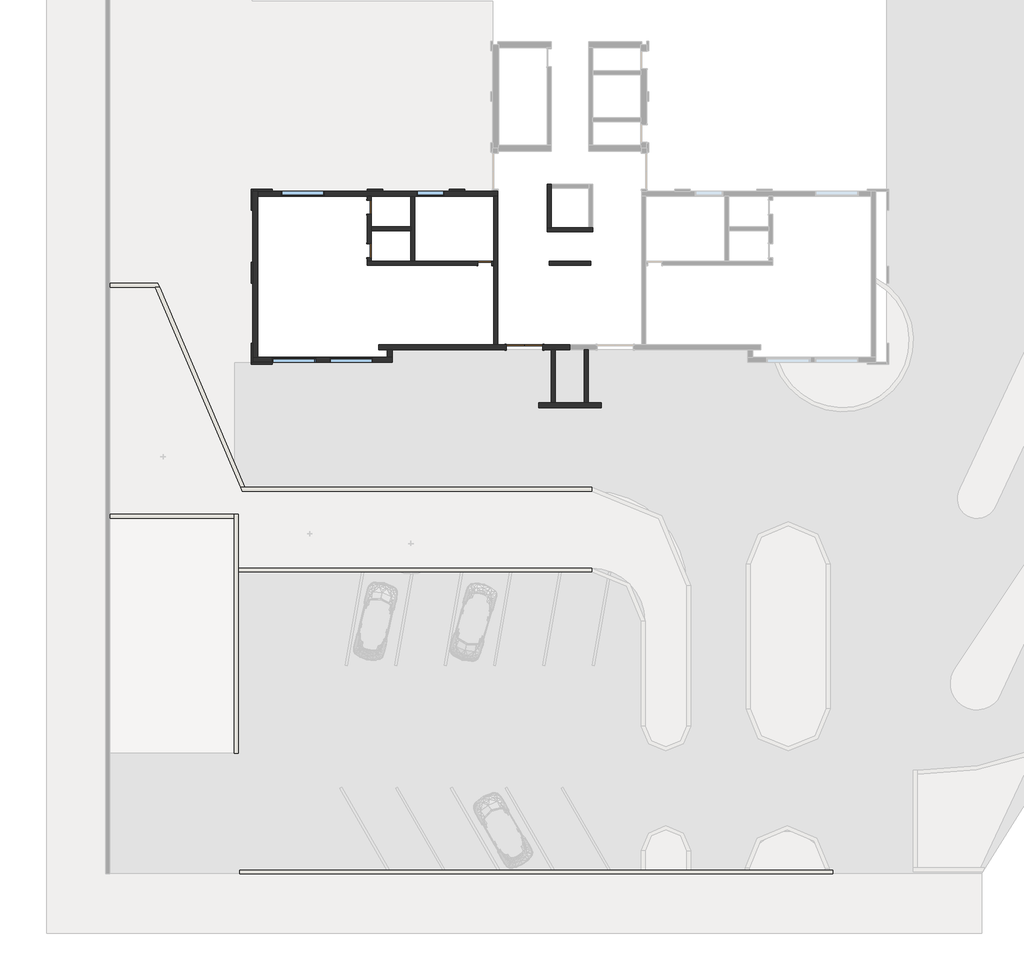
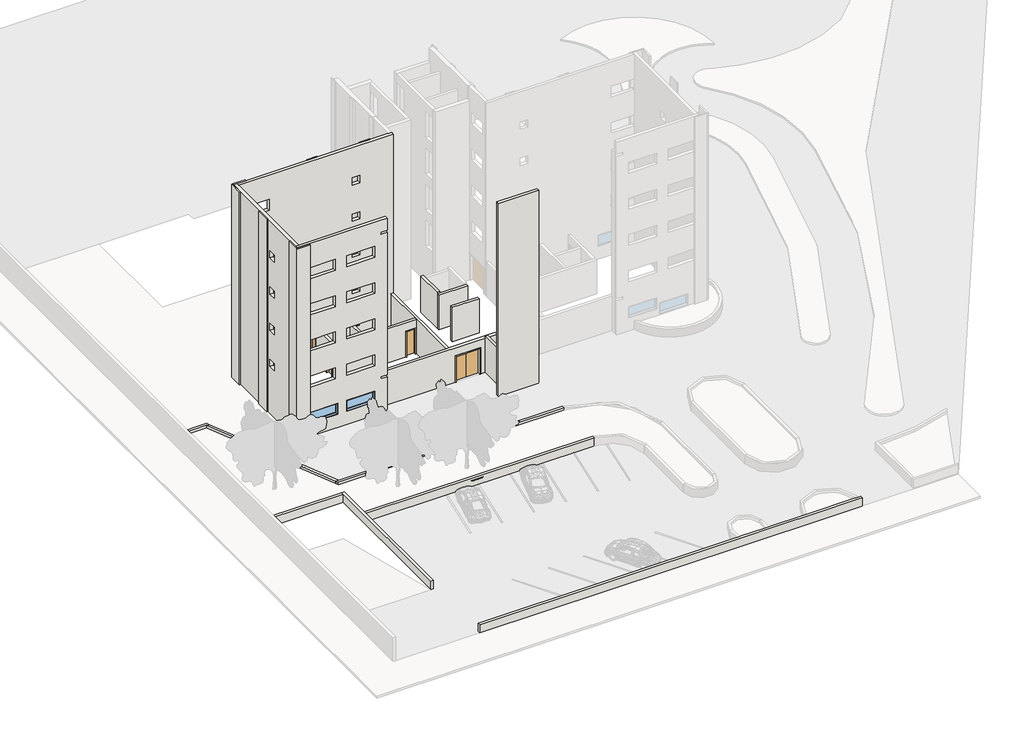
# One storey, part 1 of 6: 30 walls, 4 doors, 4 windows.
"""IFC4 building model written with IfcOpenShell, lengths in millimetres."""

from ifc_helpers import new_model, si_unit, origin, origin_with_axes, place, context, project, spatial, polyline, outline, extrude, faceted_brep, transform, mapped, element, save
from components import door_1830_x_2134_mm_660d1098, door_70_x_210_60989ca5, door_70_x_210_2a34fc55, window_140_x_90_3976a560, window_220_x_90_cea65aae

model = new_model("IFC4")

# Units and contexts
model_context = context("Model", 3, world=origin())
ifc_project = project(units=[si_unit("LENGTHUNIT", "METRE", prefix="MILLI")], contexts=[model_context])

# Site, building, storey
site = spatial("IfcSite", under=ifc_project)
building = spatial("IfcBuilding", under=site)
storey = spatial("IfcBuildingStorey", under=building, Name="Térreo", Elevation=0.0)

# Doors
placement = place(None, origin())
door_1830_x_2134_mm_shape = door_1830_x_2134_mm_660d1098(model_context)
element("IfcDoor", 1, ObjectType="Descarga dupla : 1830 x 2134 mm", at=placement, inside=storey, context=model_context, shape_type="MappedRepresentation", body=[
    mapped(door_1830_x_2134_mm_shape, transform((-3318.7265742, -11931.3385375, 0.0), x_axis=(1.0, 0.0, 0.0), y_axis=(0.0, 1.0, 0.0), z_axis=(0.0, 0.0, 1.0))),
])
door_70_x_210_shape = door_70_x_210_60989ca5(model_context)
element("IfcDoor", 2, ObjectType="M_Descarga simples : 70 x 210", at=placement, inside=storey, context=model_context, shape_type="MappedRepresentation", body=[
    mapped(door_70_x_210_shape, transform((-5326.2265742, -7686.3385375, 0.0), x_axis=(1.0, 0.0, 0.0), y_axis=(0.0, 1.0, 0.0), z_axis=(0.0, 0.0, 1.0))),
])
element("IfcDoor", 3, ObjectType="M_Descarga simples : 70 x 210", at=placement, inside=storey, context=model_context, shape_type="MappedRepresentation", body=[
    mapped(door_70_x_210_shape, transform((-11191.2265742, -7036.3385375, 0.0), x_axis=(0.0, -1.0, 0.0), y_axis=(1.0, 0.0, 0.0), z_axis=(0.0, 0.0, 1.0))),
])
door_70_x_210_2_shape = door_70_x_210_2a34fc55(model_context)
element("IfcDoor", 4, ObjectType="M_Descarga simples : 70 x 210", at=placement, inside=storey, context=model_context, shape_type="MappedRepresentation", body=[
    mapped(door_70_x_210_2_shape, transform((-11191.2265742, -4836.3385375, 0.0), x_axis=(0.0, 1.0, 0.0), y_axis=(-1.0, 0.0, 0.0), z_axis=(0.0, 0.0, 1.0))),
])

# Walls
element("IfcWall", 5, ObjectType="Exeterna 25", at=placement, inside=storey, context=model_context, shape_type="Brep", body=[
    faceted_brep([(-2611.2265742, -14981.3385375, 16000.0), (-2611.2265742, -14981.3385375, 14700.0), (-2611.2265742, -14981.3385375, 12150.0), (-2611.2265742, -14981.3385375, 11850.0), (-2611.2265742, -14981.3385375, 9150.0), (-2611.2265742, -14981.3385375, 8850.0), (-2611.2265742, -14981.3385375, 6150.0), (-2611.2265742, -14981.3385375, 5850.0), (-2611.2265742, -14981.3385375, 3150.0), (-2611.2265742, -14981.3385375, 2850.0), (-2611.2265742, -14981.3385375, 0.0), (558.7734258, -14981.3385375, 0.0), (558.7734258, -14981.3385375, 2850.0), (558.7734258, -14981.3385375, 3150.0), (558.7734258, -14981.3385375, 5850.0), (558.7734258, -14981.3385375, 6150.0), (558.7734258, -14981.3385375, 8850.0), (558.7734258, -14981.3385375, 9150.0), (558.7734258, -14981.3385375, 11850.0), (558.7734258, -14981.3385375, 12150.0), (558.7734258, -14981.3385375, 14700.0), (558.7734258, -14981.3385375, 16000.0), (-2611.2265742, -14731.3385375, 0.0), (-2611.2265742, -14731.3385375, 2850.0), (-2611.2265742, -14731.3385375, 3150.0), (-2611.2265742, -14731.3385375, 5850.0), (-2611.2265742, -14731.3385375, 6150.0), (-2611.2265742, -14731.3385375, 8850.0), (-2611.2265742, -14731.3385375, 9150.0), (-2611.2265742, -14731.3385375, 11850.0), (-2611.2265742, -14731.3385375, 12150.0), (-2611.2265742, -14731.3385375, 14700.0), (-2611.2265742, -14731.3385375, 16000.0), (558.7734258, -14731.3385375, 16000.0), (558.7734258, -14731.3385375, 14700.0), (558.7734258, -14731.3385375, 12150.0), (558.7734258, -14731.3385375, 11850.0), (558.7734258, -14731.3385375, 9150.0), (558.7734258, -14731.3385375, 8850.0), (558.7734258, -14731.3385375, 6150.0), (558.7734258, -14731.3385375, 5850.0), (558.7734258, -14731.3385375, 3150.0), (558.7734258, -14731.3385375, 2850.0), (558.7734258, -14731.3385375, 0.0), (-91.2265742, -14731.3385375, 0.0), (-291.2265742, -14731.3385375, 0.0), (-1761.2265742, -14731.3385375, 0.0), (-1961.2265742, -14731.3385375, 0.0)], [[[0, 1, 2, 3, 4, 5, 6, 7, 8, 9, 10, 11, 12, 13, 14, 15, 16, 17, 18, 19, 20, 21]], [[22, 23, 24, 25, 26, 27, 28, 29, 30, 31, 32, 33, 34, 35, 36, 37, 38, 39, 40, 41, 42, 43, 44, 45, 46, 47]], [[11, 10, 22, 47, 46, 45, 44, 43]], [[0, 21, 33, 32]], [[11, 43, 42, 41, 40, 39, 38, 37, 36, 35, 34, 33, 21, 20, 19, 18, 17, 16, 15, 14, 13, 12]], [[0, 32, 31, 30, 29, 28, 27, 26, 25, 24, 23, 22, 10, 9, 8, 7, 6, 5, 4, 3, 2, 1]]]),
])
element("IfcWall", 6, ObjectType="Exeterna 25", at=placement, inside=storey, context=model_context, shape_type="Brep", body=[
    faceted_brep([(-10026.2265742, -12436.3385375, 0.0), (-10276.2265742, -12436.3385375, 0.0), (-16816.2265742, -12436.3385375, 0.0), (-17066.2265742, -12436.3385375, 0.0), (-17066.2265742, -12436.3385375, 16000.0), (-16816.2265742, -12436.3385375, 16000.0), (-10026.2265742, -12436.3385375, 16000.0), (-10026.2265742, -12436.3385375, 15000.0), (-10516.2265742, -12436.3385375, 15000.0), (-10516.2265742, -12436.3385375, 14850.0), (-10026.2265742, -12436.3385375, 14850.0), (-10026.2265742, -12436.3385375, 3000.0), (-10516.2265742, -12436.3385375, 3000.0), (-10516.2265742, -12436.3385375, 2850.0), (-10026.2265742, -12436.3385375, 2850.0), (-13191.2265742, -12436.3385375, 5000.0), (-13191.2265742, -12436.3385375, 4100.0), (-10991.2265742, -12436.3385375, 4100.0), (-10991.2265742, -12436.3385375, 5000.0), (-16291.2265742, -12436.3385375, 5000.0), (-16291.2265742, -12436.3385375, 4100.0), (-14091.2265742, -12436.3385375, 4100.0), (-14091.2265742, -12436.3385375, 5000.0), (-16291.2265742, -12436.3385375, 8000.0), (-16291.2265742, -12436.3385375, 7100.0), (-14091.2265742, -12436.3385375, 7100.0), (-14091.2265742, -12436.3385375, 8000.0), (-13191.2265742, -12436.3385375, 8000.0), (-13191.2265742, -12436.3385375, 7100.0), (-10991.2265742, -12436.3385375, 7100.0), (-10991.2265742, -12436.3385375, 8000.0), (-16291.2265742, -12436.3385375, 11000.0), (-16291.2265742, -12436.3385375, 10100.0), (-14091.2265742, -12436.3385375, 10100.0), (-14091.2265742, -12436.3385375, 11000.0), (-13191.2265742, -12436.3385375, 11000.0), (-13191.2265742, -12436.3385375, 10100.0), (-10991.2265742, -12436.3385375, 10100.0), (-10991.2265742, -12436.3385375, 11000.0), (-16291.2265742, -12436.3385375, 14000.0), (-16291.2265742, -12436.3385375, 13100.0), (-14091.2265742, -12436.3385375, 13100.0), (-14091.2265742, -12436.3385375, 14000.0), (-13191.2265742, -12436.3385375, 14000.0), (-13191.2265742, -12436.3385375, 13100.0), (-10991.2265742, -12436.3385375, 13100.0), (-10991.2265742, -12436.3385375, 14000.0), (-16096.2265742, -12436.3385375, 2000.0), (-16096.2265742, -12436.3385375, 1100.0), (-13896.2265742, -12436.3385375, 1100.0), (-13896.2265742, -12436.3385375, 2000.0), (-13191.2265742, -12436.3385375, 2000.0), (-13191.2265742, -12436.3385375, 1100.0), (-10991.2265742, -12436.3385375, 1100.0), (-10991.2265742, -12436.3385375, 2000.0), (-17066.2265742, -12686.3385375, 0.0), (-10026.2265742, -12686.3385375, 0.0), (-10026.2265742, -12686.3385375, 2850.0), (-10516.2265742, -12686.3385375, 2850.0), (-10516.2265742, -12686.3385375, 3000.0), (-10026.2265742, -12686.3385375, 3000.0), (-10026.2265742, -12686.3385375, 14850.0), (-10516.2265742, -12686.3385375, 14850.0), (-10516.2265742, -12686.3385375, 15000.0), (-10026.2265742, -12686.3385375, 15000.0), (-10026.2265742, -12686.3385375, 16000.0), (-10516.2265742, -12686.3385375, 16000.0), (-10766.2265742, -12686.3385375, 16000.0), (-17066.2265742, -12686.3385375, 16000.0), (-13191.2265742, -12686.3385375, 4100.0), (-13191.2265742, -12686.3385375, 5000.0), (-10991.2265742, -12686.3385375, 5000.0), (-10991.2265742, -12686.3385375, 4100.0), (-16291.2265742, -12686.3385375, 4100.0), (-16291.2265742, -12686.3385375, 5000.0), (-14091.2265742, -12686.3385375, 5000.0), (-14091.2265742, -12686.3385375, 4100.0), (-16291.2265742, -12686.3385375, 7100.0), (-16291.2265742, -12686.3385375, 8000.0), (-14091.2265742, -12686.3385375, 8000.0), (-14091.2265742, -12686.3385375, 7100.0), (-13191.2265742, -12686.3385375, 7100.0), (-13191.2265742, -12686.3385375, 8000.0), (-10991.2265742, -12686.3385375, 8000.0), (-10991.2265742, -12686.3385375, 7100.0), (-16291.2265742, -12686.3385375, 10100.0), (-16291.2265742, -12686.3385375, 11000.0), (-14091.2265742, -12686.3385375, 11000.0), (-14091.2265742, -12686.3385375, 10100.0), (-13191.2265742, -12686.3385375, 10100.0), (-13191.2265742, -12686.3385375, 11000.0), (-10991.2265742, -12686.3385375, 11000.0), (-10991.2265742, -12686.3385375, 10100.0), (-16291.2265742, -12686.3385375, 13100.0), (-16291.2265742, -12686.3385375, 14000.0), (-14091.2265742, -12686.3385375, 14000.0), (-14091.2265742, -12686.3385375, 13100.0), (-13191.2265742, -12686.3385375, 13100.0), (-13191.2265742, -12686.3385375, 14000.0), (-10991.2265742, -12686.3385375, 14000.0), (-10991.2265742, -12686.3385375, 13100.0), (-16096.2265742, -12686.3385375, 1100.0), (-16096.2265742, -12686.3385375, 2000.0), (-13896.2265742, -12686.3385375, 2000.0), (-13896.2265742, -12686.3385375, 1100.0), (-13191.2265742, -12686.3385375, 1100.0), (-13191.2265742, -12686.3385375, 2000.0), (-10991.2265742, -12686.3385375, 2000.0), (-10991.2265742, -12686.3385375, 1100.0)], [[[0, 1, 2, 3, 4, 5, 6, 7, 8, 9, 10, 11, 12, 13, 14], [15, 16, 17, 18], [19, 20, 21, 22], [23, 24, 25, 26], [27, 28, 29, 30], [31, 32, 33, 34], [35, 36, 37, 38], [39, 40, 41, 42], [43, 44, 45, 46], [47, 48, 49, 50], [51, 52, 53, 54]], [[55, 56, 57, 58, 59, 60, 61, 62, 63, 64, 65, 66, 67, 68], [69, 70, 71, 72], [73, 74, 75, 76], [77, 78, 79, 80], [81, 82, 83, 84], [85, 86, 87, 88], [89, 90, 91, 92], [93, 94, 95, 96], [97, 98, 99, 100], [101, 102, 103, 104], [105, 106, 107, 108]], [[3, 2, 1, 0, 56, 55]], [[6, 5, 4, 68, 67, 66, 65]], [[4, 3, 55, 68]], [[6, 65, 64, 7]], [[56, 0, 14, 57]], [[60, 11, 10, 61]], [[13, 58, 57, 14]], [[59, 12, 11, 60]], [[58, 13, 12, 59]], [[70, 69, 16, 15]], [[71, 70, 15, 18]], [[72, 71, 18, 17]], [[69, 72, 17, 16]], [[74, 73, 20, 19]], [[75, 74, 19, 22]], [[76, 75, 22, 21]], [[73, 76, 21, 20]], [[9, 62, 61, 10]], [[63, 8, 7, 64]], [[62, 9, 8, 63]], [[78, 77, 24, 23]], [[79, 78, 23, 26]], [[80, 79, 26, 25]], [[77, 80, 25, 24]], [[82, 81, 28, 27]], [[83, 82, 27, 30]], [[84, 83, 30, 29]], [[81, 84, 29, 28]], [[86, 85, 32, 31]], [[87, 86, 31, 34]], [[88, 87, 34, 33]], [[85, 88, 33, 32]], [[90, 89, 36, 35]], [[91, 90, 35, 38]], [[92, 91, 38, 37]], [[89, 92, 37, 36]], [[94, 93, 40, 39]], [[95, 94, 39, 42]], [[96, 95, 42, 41]], [[93, 96, 41, 40]], [[98, 97, 44, 43]], [[99, 98, 43, 46]], [[100, 99, 46, 45]], [[97, 100, 45, 44]], [[102, 101, 48, 47]], [[103, 102, 47, 50]], [[104, 103, 50, 49]], [[101, 104, 49, 48]], [[106, 105, 52, 51]], [[107, 106, 51, 54]], [[108, 107, 54, 53]], [[105, 108, 53, 52]]]),
])
element("IfcWall", 7, ObjectType="Exeterna 25", at=placement, inside=storey, context=model_context, shape_type="Brep", body=[
    faceted_brep([(-16816.2265742, -12436.3385375, 0.0), (-16816.2265742, -4286.3385375, 0.0), (-16816.2265742, -4036.3385375, 0.0), (-16816.2265742, -4036.3385375, 16000.0), (-16816.2265742, -4286.3385375, 16000.0), (-16816.2265742, -12436.3385375, 16000.0), (-16816.2265742, -12436.3385375, 15000.0), (-16816.2265742, -12436.3385375, 14850.0), (-16816.2265742, -12436.3385375, 3000.0), (-16816.2265742, -12436.3385375, 2850.0), (-16816.2265742, -8966.3385375, 4515.0), (-16816.2265742, -8966.3385375, 3915.0), (-16816.2265742, -9566.3385375, 3915.0), (-16816.2265742, -9566.3385375, 4515.0), (-16816.2265742, -8966.3385375, 7515.0), (-16816.2265742, -8966.3385375, 6915.0), (-16816.2265742, -9566.3385375, 6915.0), (-16816.2265742, -9566.3385375, 7515.0), (-16816.2265742, -8966.3385375, 10515.0), (-16816.2265742, -8966.3385375, 9915.0), (-16816.2265742, -9566.3385375, 9915.0), (-16816.2265742, -9566.3385375, 10515.0), (-16816.2265742, -8966.3385375, 13515.0), (-16816.2265742, -8966.3385375, 12915.0), (-16816.2265742, -9566.3385375, 12915.0), (-16816.2265742, -9566.3385375, 13515.0), (-17066.2265742, -4036.3385375, 0.0), (-17066.2265742, -12436.3385375, 0.0), (-17066.2265742, -12436.3385375, 16000.0), (-17066.2265742, -4036.3385375, 16000.0), (-17066.2265742, -8966.3385375, 3915.0), (-17066.2265742, -8966.3385375, 4515.0), (-17066.2265742, -9566.3385375, 4515.0), (-17066.2265742, -9566.3385375, 3915.0), (-17066.2265742, -8966.3385375, 6915.0), (-17066.2265742, -8966.3385375, 7515.0), (-17066.2265742, -9566.3385375, 7515.0), (-17066.2265742, -9566.3385375, 6915.0), (-17066.2265742, -8966.3385375, 9915.0), (-17066.2265742, -8966.3385375, 10515.0), (-17066.2265742, -9566.3385375, 10515.0), (-17066.2265742, -9566.3385375, 9915.0), (-17066.2265742, -8966.3385375, 12915.0), (-17066.2265742, -8966.3385375, 13515.0), (-17066.2265742, -9566.3385375, 13515.0), (-17066.2265742, -9566.3385375, 12915.0)], [[[0, 1, 2, 3, 4, 5, 6, 7, 8, 9], [10, 11, 12, 13], [14, 15, 16, 17], [18, 19, 20, 21], [22, 23, 24, 25]], [[26, 27, 28, 29], [30, 31, 32, 33], [34, 35, 36, 37], [38, 39, 40, 41], [42, 43, 44, 45]], [[2, 1, 0, 27, 26]], [[5, 4, 3, 29, 28]], [[3, 2, 26, 29]], [[5, 28, 27, 0, 9, 8, 7, 6]], [[31, 30, 11, 10]], [[32, 31, 10, 13]], [[33, 32, 13, 12]], [[30, 33, 12, 11]], [[35, 34, 15, 14]], [[36, 35, 14, 17]], [[37, 36, 17, 16]], [[34, 37, 16, 15]], [[39, 38, 19, 18]], [[40, 39, 18, 21]], [[41, 40, 21, 20]], [[38, 41, 20, 19]], [[43, 42, 23, 22]], [[44, 43, 22, 25]], [[45, 44, 25, 24]], [[42, 45, 24, 23]]]),
])
element("IfcWall", 8, ObjectType="Exeterna 25", at=placement, inside=storey, context=model_context, shape_type="Brep", body=[
    faceted_brep([(-16816.2265742, -4286.3385375, 0.0), (-11291.2265742, -4286.3385375, 0.0), (-11091.2265742, -4286.3385375, 0.0), (-9076.2265742, -4286.3385375, 0.0), (-8876.2265742, -4286.3385375, 0.0), (-4876.2265742, -4286.3385375, 0.0), (-4676.2265742, -4286.3385375, 0.0), (-4676.2265742, -4286.3385375, 2850.0), (-4676.2265742, -4286.3385375, 3000.0), (-4676.2265742, -4286.3385375, 5850.0), (-4676.2265742, -4286.3385375, 6000.0), (-4676.2265742, -4286.3385375, 8850.0), (-4676.2265742, -4286.3385375, 9000.0), (-4676.2265742, -4286.3385375, 11850.0), (-4676.2265742, -4286.3385375, 12000.0), (-4676.2265742, -4286.3385375, 14850.0), (-4676.2265742, -4286.3385375, 15000.0), (-4676.2265742, -4286.3385375, 16000.0), (-16816.2265742, -4286.3385375, 16000.0), (-16816.2265742, -4286.3385375, 15000.0), (-16816.2265742, -4286.3385375, 14850.0), (-16816.2265742, -4286.3385375, 3000.0), (-16816.2265742, -4286.3385375, 2850.0), (-7316.2265742, -4286.3385375, 4515.0), (-7316.2265742, -4286.3385375, 3915.0), (-7916.2265742, -4286.3385375, 3915.0), (-7916.2265742, -4286.3385375, 4515.0), (-14416.2265742, -4286.3385375, 5000.0), (-14416.2265742, -4286.3385375, 4100.0), (-16616.2265742, -4286.3385375, 4100.0), (-16616.2265742, -4286.3385375, 5000.0), (-7316.2265742, -4286.3385375, 7515.0), (-7316.2265742, -4286.3385375, 6915.0), (-7916.2265742, -4286.3385375, 6915.0), (-7916.2265742, -4286.3385375, 7515.0), (-14416.2265742, -4286.3385375, 8000.0), (-14416.2265742, -4286.3385375, 7100.0), (-16616.2265742, -4286.3385375, 7100.0), (-16616.2265742, -4286.3385375, 8000.0), (-7316.2265742, -4286.3385375, 10515.0), (-7316.2265742, -4286.3385375, 9915.0), (-7916.2265742, -4286.3385375, 9915.0), (-7916.2265742, -4286.3385375, 10515.0), (-14416.2265742, -4286.3385375, 11000.0), (-14416.2265742, -4286.3385375, 10100.0), (-16616.2265742, -4286.3385375, 10100.0), (-16616.2265742, -4286.3385375, 11000.0), (-7316.2265742, -4286.3385375, 13515.0), (-7316.2265742, -4286.3385375, 12915.0), (-7916.2265742, -4286.3385375, 12915.0), (-7916.2265742, -4286.3385375, 13515.0), (-14416.2265742, -4286.3385375, 14000.0), (-14416.2265742, -4286.3385375, 13100.0), (-16616.2265742, -4286.3385375, 13100.0), (-16616.2265742, -4286.3385375, 14000.0), (-13446.2265742, -4286.3385375, 2000.0), (-13446.2265742, -4286.3385375, 1100.0), (-15646.2265742, -4286.3385375, 1100.0), (-15646.2265742, -4286.3385375, 2000.0), (-7376.2265742, -4286.3385375, 2000.0), (-7376.2265742, -4286.3385375, 1100.0), (-8776.2265742, -4286.3385375, 1100.0), (-8776.2265742, -4286.3385375, 2000.0), (-4676.2265742, -4036.3385375, 0.0), (-4926.2265742, -4036.3385375, 0.0), (-16816.2265742, -4036.3385375, 0.0), (-16816.2265742, -4036.3385375, 16000.0), (-4926.2265742, -4036.3385375, 16000.0), (-4676.2265742, -4036.3385375, 16000.0), (-4676.2265742, -4036.3385375, 15000.0), (-4676.2265742, -4036.3385375, 14850.0), (-4676.2265742, -4036.3385375, 3000.0), (-4676.2265742, -4036.3385375, 2850.0), (-7316.2265742, -4036.3385375, 3915.0), (-7316.2265742, -4036.3385375, 4515.0), (-7916.2265742, -4036.3385375, 4515.0), (-7916.2265742, -4036.3385375, 3915.0), (-14416.2265742, -4036.3385375, 4100.0), (-14416.2265742, -4036.3385375, 5000.0), (-16616.2265742, -4036.3385375, 5000.0), (-16616.2265742, -4036.3385375, 4100.0), (-7316.2265742, -4036.3385375, 6915.0), (-7316.2265742, -4036.3385375, 7515.0), (-7916.2265742, -4036.3385375, 7515.0), (-7916.2265742, -4036.3385375, 6915.0), (-14416.2265742, -4036.3385375, 7100.0), (-14416.2265742, -4036.3385375, 8000.0), (-16616.2265742, -4036.3385375, 8000.0), (-16616.2265742, -4036.3385375, 7100.0), (-7316.2265742, -4036.3385375, 9915.0), (-7316.2265742, -4036.3385375, 10515.0), (-7916.2265742, -4036.3385375, 10515.0), (-7916.2265742, -4036.3385375, 9915.0), (-14416.2265742, -4036.3385375, 10100.0), (-14416.2265742, -4036.3385375, 11000.0), (-16616.2265742, -4036.3385375, 11000.0), (-16616.2265742, -4036.3385375, 10100.0), (-7316.2265742, -4036.3385375, 12915.0), (-7316.2265742, -4036.3385375, 13515.0), (-7916.2265742, -4036.3385375, 13515.0), (-7916.2265742, -4036.3385375, 12915.0), (-14416.2265742, -4036.3385375, 13100.0), (-14416.2265742, -4036.3385375, 14000.0), (-16616.2265742, -4036.3385375, 14000.0), (-16616.2265742, -4036.3385375, 13100.0), (-13446.2265742, -4036.3385375, 1100.0), (-13446.2265742, -4036.3385375, 2000.0), (-15646.2265742, -4036.3385375, 2000.0), (-15646.2265742, -4036.3385375, 1100.0), (-7376.2265742, -4036.3385375, 1100.0), (-7376.2265742, -4036.3385375, 2000.0), (-8776.2265742, -4036.3385375, 2000.0), (-8776.2265742, -4036.3385375, 1100.0)], [[[0, 1, 2, 3, 4, 5, 6, 7, 8, 9, 10, 11, 12, 13, 14, 15, 16, 17, 18, 19, 20, 21, 22], [23, 24, 25, 26], [27, 28, 29, 30], [31, 32, 33, 34], [35, 36, 37, 38], [39, 40, 41, 42], [43, 44, 45, 46], [47, 48, 49, 50], [51, 52, 53, 54], [55, 56, 57, 58], [59, 60, 61, 62]], [[63, 64, 65, 66, 67, 68, 69, 70, 71, 72], [73, 74, 75, 76], [77, 78, 79, 80], [81, 82, 83, 84], [85, 86, 87, 88], [89, 90, 91, 92], [93, 94, 95, 96], [97, 98, 99, 100], [101, 102, 103, 104], [105, 106, 107, 108], [109, 110, 111, 112]], [[6, 5, 4, 3, 2, 1, 0, 65, 64, 63]], [[18, 17, 68, 67, 66]], [[18, 66, 65, 0, 22, 21, 20, 19]], [[23, 74, 73, 24]], [[74, 23, 26, 75]], [[75, 26, 25, 76]], [[24, 73, 76, 25]], [[78, 77, 28, 27]], [[79, 78, 27, 30]], [[80, 79, 30, 29]], [[77, 80, 29, 28]], [[6, 63, 72, 71, 70, 69, 68, 17, 16, 15, 14, 13, 12, 11, 10, 9, 8, 7]], [[82, 81, 32, 31]], [[83, 82, 31, 34]], [[84, 83, 34, 33]], [[81, 84, 33, 32]], [[86, 85, 36, 35]], [[87, 86, 35, 38]], [[88, 87, 38, 37]], [[85, 88, 37, 36]], [[90, 89, 40, 39]], [[91, 90, 39, 42]], [[92, 91, 42, 41]], [[89, 92, 41, 40]], [[94, 93, 44, 43]], [[95, 94, 43, 46]], [[96, 95, 46, 45]], [[93, 96, 45, 44]], [[98, 97, 48, 47]], [[99, 98, 47, 50]], [[100, 99, 50, 49]], [[97, 100, 49, 48]], [[102, 101, 52, 51]], [[103, 102, 51, 54]], [[104, 103, 54, 53]], [[101, 104, 53, 52]], [[106, 105, 56, 55]], [[107, 106, 55, 58]], [[108, 107, 58, 57]], [[105, 108, 57, 56]], [[110, 109, 60, 59]], [[111, 110, 59, 62]], [[112, 111, 62, 61]], [[109, 112, 61, 60]]]),
])
element("IfcWall", 9, ObjectType="Exeterna 25", at=placement, inside=storey, context=model_context, shape_type="Brep", body=[
    faceted_brep([(-10276.2265742, -12056.3385375, 0.0), (-10276.2265742, -12436.3385375, 0.0), (-10276.2265742, -12436.3385375, 15000.0), (-10276.2265742, -12056.3385375, 15000.0), (-10026.2265742, -12056.3385375, 0.0), (-10026.2265742, -12056.3385375, 3000.0), (-10026.2265742, -12056.3385375, 6000.0), (-10026.2265742, -12056.3385375, 15000.0), (-10026.2265742, -12436.3385375, 15000.0), (-10026.2265742, -12436.3385375, 0.0)], [[[0, 1, 2, 3]], [[4, 5, 6, 7, 8, 9]], [[1, 0, 4, 9]], [[3, 2, 8, 7]], [[2, 1, 9, 8]], [[0, 3, 7, 6, 5, 4]]]),
])
element("IfcWall", 10, ObjectType="Exeterna 25", at=placement, inside=storey, context=model_context, shape_type="Brep", body=[
    faceted_brep([(-10691.2265742, -11806.3385375, 0.0), (-10691.2265742, -11806.3385375, 2850.0), (-4876.2265742, -11806.3385375, 2850.0), (-4676.2265742, -11806.3385375, 2850.0), (-1026.2265742, -11806.3385375, 2850.0), (-1026.2265742, -11806.3385375, 0.0), (-2403.7265742, -11806.3385375, 0.0), (-2403.7265742, -11806.3385375, 2134.0), (-4233.7265742, -11806.3385375, 2134.0), (-4233.7265742, -11806.3385375, 0.0), (-4676.2265742, -11806.3385375, 0.0), (-4876.2265742, -11806.3385375, 0.0), (-10691.2265742, -12056.3385375, 2850.0), (-10691.2265742, -12056.3385375, 0.0), (-4233.7265742, -12056.3385375, 0.0), (-4233.7265742, -12056.3385375, 2134.0), (-2403.7265742, -12056.3385375, 2134.0), (-2403.7265742, -12056.3385375, 0.0), (-1961.2265742, -12056.3385375, 0.0), (-1761.2265742, -12056.3385375, 0.0), (-1026.2265742, -12056.3385375, 0.0), (-1026.2265742, -12056.3385375, 2850.0)], [[[0, 1, 2, 3, 4, 5, 6, 7, 8, 9, 10, 11]], [[12, 13, 14, 15, 16, 17, 18, 19, 20, 21]], [[13, 0, 11, 10, 9, 14]], [[5, 20, 19, 18, 17, 6]], [[1, 0, 13, 12]], [[4, 3, 2, 1, 12, 21]], [[5, 4, 21, 20]], [[16, 7, 6, 17]], [[7, 16, 15, 8]], [[8, 15, 14, 9]]]),
])
element("IfcWall", 11, ObjectType="jardineira", at=placement, inside=storey, context=model_context, shape_type="Brep", body=[
    faceted_brep([(-24317.9141262, -8892.5709243, 0.0), (-22007.8057625, -8892.5709243, 0.0), (-21790.3676607, -8892.5709243, 0.0), (-21790.3676607, -8892.5709243, 700.0), (-22007.8057625, -8892.5709243, 700.0), (-24317.9141262, -8892.5709243, 700.0), (-24317.9141262, -8692.5709243, 0.0), (-24317.9141262, -8692.5709243, 700.0), (-21875.6866395, -8692.5709243, 700.0), (-21875.6866395, -8692.5709243, 0.0)], [[[0, 1, 2, 3, 4, 5]], [[6, 7, 8, 9]], [[2, 1, 0, 6, 9]], [[5, 4, 3, 8, 7]], [[3, 2, 9, 8]], [[0, 5, 7, 6]]]),
])
element("IfcWall", 12, ObjectType="jardineira", at=placement, inside=storey, context=model_context, shape_type="Brep", body=[
    faceted_brep([(-17607.8694716, -19206.6566108, 0.0), (91.9307061, -19206.6566108, 0.0), (91.9307061, -19206.6566108, 700.0), (-17607.8694716, -19206.6566108, 700.0), (-17693.1884504, -19006.6566108, 0.0), (-17693.1884504, -19006.6566108, 700.0), (-17475.7503485, -19006.6566108, 700.0), (91.9307061, -19006.6566108, 700.0), (91.9307061, -19006.6566108, 0.0), (-17475.7503485, -19006.6566108, 0.0)], [[[0, 1, 2, 3]], [[4, 5, 6, 7, 8, 9]], [[1, 0, 4, 9, 8]], [[2, 1, 8, 7]], [[3, 2, 7, 6, 5]], [[0, 3, 5, 4]]]),
])
element("IfcWall", 13, ObjectType="jardineira", at=placement, inside=storey, context=model_context, shape_type="Brep", body=[
    faceted_brep([(12290.2895647, -38395.8732274, 0.0), (12116.0838171, -38395.8732274, 0.0), (11916.0838171, -38395.8732274, 0.0), (8045.9961451, -38395.8732274, 0.0), (7845.9961451, -38395.8732274, 0.0), (5091.9307061, -38395.8732274, 0.0), (4891.9307061, -38395.8732274, 0.0), (2791.9307061, -38395.8732274, 0.0), (2591.9307061, -38395.8732274, 0.0), (-17729.7104353, -38395.8732274, 0.0), (-17729.7104353, -38395.8732274, 700.0), (2591.9307061, -38395.8732274, 700.0), (2791.9307061, -38395.8732274, 700.0), (4891.9307061, -38395.8732274, 700.0), (5091.9307061, -38395.8732274, 700.0), (7845.9961451, -38395.8732274, 700.0), (8045.9961451, -38395.8732274, 700.0), (11916.0838171, -38395.8732274, 700.0), (12116.0838171, -38395.8732274, 700.0), (12290.2895647, -38395.8732274, 700.0), (12290.2895647, -38595.8732274, 0.0), (12290.2895647, -38595.8732274, 700.0), (-17729.7104353, -38595.8732274, 700.0), (-17729.7104353, -38595.8732274, 0.0)], [[[0, 1, 2, 3, 4, 5, 6, 7, 8, 9, 10, 11, 12, 13, 14, 15, 16, 17, 18, 19]], [[20, 21, 22, 23]], [[9, 8, 7, 6, 5, 4, 3, 2, 1, 0, 20, 23]], [[10, 9, 23, 22]], [[19, 18, 17, 16, 15, 14, 13, 12, 11, 10, 22, 21]], [[0, 19, 21, 20]]]),
])
element("IfcWall", 14, ObjectType="jardineira", at=placement, inside=storey, context=model_context, shape_type="Brep", body=[
    faceted_brep([(-18017.9141262, -20375.5927534, 0.0), (-18017.9141262, -20575.5927534, 0.0), (-18017.9141262, -32494.7400989, 0.0), (-18017.9141262, -32494.7400989, 700.0), (-18017.9141262, -20575.5927534, 700.0), (-18017.9141262, -20375.5927534, 700.0), (-17817.9141262, -20375.5927534, 0.0), (-17817.9141262, -20375.5927534, 700.0), (-17817.9141262, -23106.6566108, 700.0), (-17817.9141262, -23306.6566108, 700.0), (-17817.9141262, -32494.7400989, 700.0), (-17817.9141262, -32494.7400989, 0.0), (-17817.9141262, -23306.6566108, 0.0), (-17817.9141262, -23106.6566108, 0.0)], [[[0, 1, 2, 3, 4, 5]], [[6, 7, 8, 9, 10, 11, 12, 13]], [[2, 1, 0, 6, 13, 12, 11]], [[3, 2, 11, 10]], [[5, 4, 3, 10, 9, 8, 7]], [[0, 5, 7, 6]]]),
])
element("IfcWall", 15, ObjectType="jardineira", at=placement, inside=storey, context=model_context, shape_type="SweptSolid", body=[
    extrude(outline(polyline([(-18017.9141262, -20575.5927534), (-24317.9141262, -20575.5927534), (-24317.9141262, -20375.5927534), (-18017.9141262, -20375.5927534), (-18017.9141262, -20575.5927534)])), origin_with_axes(), (0.0, 0.0, 1.0), 700.0),
])
element("IfcWall", 16, ObjectType="jardineira", at=placement, inside=storey, context=model_context, shape_type="SweptSolid", body=[
    extrude(outline(polyline([(-17693.1884504, -19006.6566108), (-22007.8057625, -8892.5709243), (-21790.3676607, -8892.5709243), (-17475.7503485, -19006.6566108), (-17693.1884504, -19006.6566108)])), origin_with_axes(), (0.0, 0.0, 1.0), 700.0),
])
element("IfcWall", 17, ObjectType="jardineira", at=placement, inside=storey, context=model_context, shape_type="SweptSolid", body=[
    extrude(outline(polyline([(91.9307061, -23306.6566108), (-17817.9141262, -23306.6566108), (-17817.9141262, -23106.6566108), (91.9307061, -23106.6566108), (91.9307061, -23306.6566108)])), origin_with_axes(), (0.0, 0.0, 1.0), 700.0),
])
element("IfcWall", 18, ObjectType="Estrutura 20", at=placement, inside=storey, context=model_context, shape_type="Brep", body=[
    faceted_brep([(-4876.2265742, -7586.3385375, 0.0), (-4976.2265742, -7586.3385375, 0.0), (-4976.2265742, -7586.3385375, 2100.0), (-5676.2265742, -7586.3385375, 2100.0), (-5676.2265742, -7586.3385375, 0.0), (-8876.2265742, -7586.3385375, 0.0), (-9076.2265742, -7586.3385375, 0.0), (-11091.2265742, -7586.3385375, 0.0), (-11291.2265742, -7586.3385375, 0.0), (-11291.2265742, -7586.3385375, 2850.0), (-11091.2265742, -7586.3385375, 2850.0), (-9076.2265742, -7586.3385375, 2850.0), (-8876.2265742, -7586.3385375, 2850.0), (-4876.2265742, -7586.3385375, 2850.0), (-4976.2265742, -7786.3385375, 2100.0), (-4976.2265742, -7786.3385375, 0.0), (-4876.2265742, -7786.3385375, 0.0), (-4876.2265742, -7786.3385375, 2850.0), (-11291.2265742, -7786.3385375, 2850.0), (-11291.2265742, -7786.3385375, 0.0), (-5676.2265742, -7786.3385375, 0.0), (-5676.2265742, -7786.3385375, 2100.0)], [[[0, 1, 2, 3, 4, 5, 6, 7, 8, 9, 10, 11, 12, 13]], [[14, 15, 16, 17, 18, 19, 20, 21]], [[20, 19, 8, 7, 6, 5, 4]], [[16, 15, 1, 0]], [[9, 8, 19, 18]], [[2, 1, 15, 14]], [[3, 2, 14, 21]], [[4, 3, 21, 20]], [[0, 13, 17, 16]], [[13, 12, 11, 10, 9, 18, 17]]]),
])
element("IfcWall", 19, ObjectType="Estrutura 20", at=placement, inside=storey, context=model_context, shape_type="Brep", body=[
    faceted_brep([(-11091.2265742, -4486.3385375, 2100.0), (-11091.2265742, -4486.3385375, 0.0), (-11091.2265742, -4286.3385375, 0.0), (-11091.2265742, -4286.3385375, 2850.0), (-11091.2265742, -5836.3385375, 2850.0), (-11091.2265742, -6036.3385375, 2850.0), (-11091.2265742, -7586.3385375, 2850.0), (-11091.2265742, -7586.3385375, 0.0), (-11091.2265742, -7386.3385375, 0.0), (-11091.2265742, -7386.3385375, 2100.0), (-11091.2265742, -6686.3385375, 2100.0), (-11091.2265742, -6686.3385375, 0.0), (-11091.2265742, -6036.3385375, 0.0), (-11091.2265742, -5836.3385375, 0.0), (-11091.2265742, -5186.3385375, 0.0), (-11091.2265742, -5186.3385375, 2100.0), (-11291.2265742, -4286.3385375, 0.0), (-11291.2265742, -4486.3385375, 0.0), (-11291.2265742, -4486.3385375, 2100.0), (-11291.2265742, -5186.3385375, 2100.0), (-11291.2265742, -5186.3385375, 0.0), (-11291.2265742, -6686.3385375, 0.0), (-11291.2265742, -6686.3385375, 2100.0), (-11291.2265742, -7386.3385375, 2100.0), (-11291.2265742, -7386.3385375, 0.0), (-11291.2265742, -7586.3385375, 0.0), (-11291.2265742, -7586.3385375, 2850.0), (-11291.2265742, -4286.3385375, 2850.0)], [[[0, 1, 2, 3, 4, 5, 6, 7, 8, 9, 10, 11, 12, 13, 14, 15]], [[16, 17, 18, 19, 20, 21, 22, 23, 24, 25, 26, 27]], [[25, 24, 8, 7]], [[2, 1, 17, 16]], [[14, 13, 12, 11, 21, 20]], [[7, 6, 26, 25]], [[9, 8, 24, 23]], [[10, 9, 23, 22]], [[11, 10, 22, 21]], [[18, 17, 1, 0]], [[19, 18, 0, 15]], [[20, 19, 15, 14]], [[3, 2, 16, 27]], [[6, 5, 4, 3, 27, 26]]]),
])
element("IfcWall", 20, ObjectType="Estrutura 20", at=placement, inside=storey, context=model_context, shape_type="Brep", body=[
    faceted_brep([(-8876.2265742, -7586.3385375, 0.0), (-8876.2265742, -4286.3385375, 0.0), (-8876.2265742, -4286.3385375, 2850.0), (-8876.2265742, -7586.3385375, 2850.0), (-9076.2265742, -7586.3385375, 0.0), (-9076.2265742, -7586.3385375, 2850.0), (-9076.2265742, -6036.3385375, 2850.0), (-9076.2265742, -5836.3385375, 2850.0), (-9076.2265742, -4286.3385375, 2850.0), (-9076.2265742, -4286.3385375, 0.0), (-9076.2265742, -5836.3385375, 0.0), (-9076.2265742, -6036.3385375, 0.0)], [[[0, 1, 2, 3]], [[4, 5, 6, 7, 8, 9, 10, 11]], [[1, 0, 4, 11, 10, 9]], [[0, 3, 5, 4]], [[2, 1, 9, 8]], [[3, 2, 8, 7, 6, 5]]]),
])
element("IfcWall", 21, ObjectType="Estrutura 20", at=placement, inside=storey, context=model_context, shape_type="SweptSolid", body=[
    extrude(outline(polyline([(-9076.2265742, -6036.3385375), (-11091.2265742, -6036.3385375), (-11091.2265742, -5836.3385375), (-9076.2265742, -5836.3385375), (-9076.2265742, -6036.3385375)])), origin_with_axes(), (0.0, 0.0, 1.0), 2850.0),
])
element("IfcWall", 22, ObjectType="Estrutura 20", at=placement, inside=storey, context=model_context, shape_type="Brep", body=[
    faceted_brep([(-2176.2265742, -6086.3385375, 0.0), (123.7734258, -6086.3385375, 0.0), (123.7734258, -6086.3385375, 2850.0), (-2176.2265742, -6086.3385375, 2850.0), (-2176.2265742, -5886.3385375, 0.0), (-2176.2265742, -5886.3385375, 2850.0), (123.7734258, -5886.3385375, 2850.0), (123.7734258, -5886.3385375, 0.0), (-76.2265742, -5886.3385375, 0.0), (-1976.2265742, -5886.3385375, 0.0)], [[[0, 1, 2, 3]], [[4, 5, 6, 7, 8, 9]], [[1, 0, 4, 9, 8, 7]], [[2, 1, 7, 6]], [[0, 3, 5, 4]], [[3, 2, 6, 5]]]),
])
element("IfcWall", 23, ObjectType="Estrutura 20", at=placement, inside=storey, context=model_context, shape_type="SweptSolid", body=[
    extrude(outline(polyline([(-2076.2265742, -7586.3385375), (23.7734258, -7586.3385375), (23.7734258, -7786.3385375), (-2076.2265742, -7786.3385375), (-2076.2265742, -7586.3385375)])), origin_with_axes(), (0.0, 0.0, 1.0), 2850.0),
])
element("IfcWall", 24, ObjectType="Interna 20", at=placement, inside=storey, context=model_context, shape_type="SweptSolid", body=[
    extrude(outline(polyline([(-291.2265742, -14731.3385375), (-291.2265742, -12056.3385375), (-91.2265742, -12056.3385375), (-91.2265742, -14731.3385375), (-291.2265742, -14731.3385375)])), origin_with_axes(), (0.0, 0.0, 1.0), 3000.0),
])
element("IfcWall", 25, ObjectType="Interna 20", at=placement, inside=storey, context=model_context, shape_type="SweptSolid", body=[
    extrude(outline(polyline([(-1961.2265742, -14731.3385375), (-1961.2265742, -12056.3385375), (-1761.2265742, -12056.3385375), (-1761.2265742, -14731.3385375), (-1961.2265742, -14731.3385375)])), origin_with_axes(), (0.0, 0.0, 1.0), 3000.0),
])
element("IfcWall", 26, ObjectType="Interna 20", at=placement, inside=storey, context=model_context, shape_type="Brep", body=[
    faceted_brep([(-1976.2265742, -5886.3385375, 0.0), (-1976.2265742, -3886.3385375, 0.0), (-1976.2265742, -3686.3385375, 0.0), (-1976.2265742, -3686.3385375, 2850.0), (-1976.2265742, -3686.3385375, 3000.0), (-1976.2265742, -5886.3385375, 3000.0), (-2176.2265742, -5886.3385375, 0.0), (-2176.2265742, -5886.3385375, 2850.0), (-2176.2265742, -5886.3385375, 3000.0), (-2176.2265742, -3686.3385375, 3000.0), (-2176.2265742, -3686.3385375, 0.0)], [[[0, 1, 2, 3, 4, 5]], [[6, 7, 8, 9, 10]], [[2, 1, 0, 6, 10]], [[5, 4, 9, 8]], [[4, 3, 2, 10, 9]], [[0, 5, 8, 7, 6]]]),
])
element("IfcWall", 27, ObjectType="Interna 20", at=placement, inside=storey, context=model_context, shape_type="Brep", body=[
    faceted_brep([(-4676.2265742, -11806.3385375, 0.0), (-4676.2265742, -4286.3385375, 0.0), (-4676.2265742, -4286.3385375, 2850.0), (-4676.2265742, -11806.3385375, 2850.0), (-4876.2265742, -11806.3385375, 0.0), (-4876.2265742, -11806.3385375, 2850.0), (-4876.2265742, -7786.3385375, 2850.0), (-4876.2265742, -7586.3385375, 2850.0), (-4876.2265742, -4286.3385375, 2850.0), (-4876.2265742, -4286.3385375, 0.0), (-4876.2265742, -7586.3385375, 0.0), (-4876.2265742, -7786.3385375, 0.0)], [[[0, 1, 2, 3]], [[4, 5, 6, 7, 8, 9, 10, 11]], [[1, 0, 4, 11, 10, 9]], [[3, 2, 8, 7, 6, 5]], [[2, 1, 9, 8]], [[0, 3, 5, 4]]]),
])
element("IfcWall", 28, ObjectType="detalhe", at=placement, inside=storey, context=model_context, shape_type="Brep", body=[
    faceted_brep([(-16096.2265742, -12686.3385375, 0.0), (-17066.2265742, -12686.3385375, 0.0), (-17166.2265742, -12686.3385375, 0.0), (-17166.2265742, -12686.3385375, 16000.0), (-17066.2265742, -12686.3385375, 16000.0), (-16096.2265742, -12686.3385375, 16000.0), (-16096.2265742, -12786.3385375, 0.0), (-16096.2265742, -12786.3385375, 16000.0), (-17166.2265742, -12786.3385375, 16000.0), (-17166.2265742, -12786.3385375, 0.0)], [[[0, 1, 2, 3, 4, 5]], [[6, 7, 8, 9]], [[2, 1, 0, 6, 9]], [[5, 4, 3, 8, 7]], [[0, 5, 7, 6]], [[3, 2, 9, 8]]]),
])
element("IfcWall", 29, ObjectType="detalhe", at=placement, inside=storey, context=model_context, shape_type="SweptSolid", body=[
    extrude(outline(polyline([(-17066.2265742, -11736.3385375), (-17066.2265742, -12686.3385375), (-17166.2265742, -12686.3385375), (-17166.2265742, -11736.3385375), (-17066.2265742, -11736.3385375)])), origin_with_axes(), (0.0, 0.0, 1.0), 16000.0),
])
element("IfcWall", 30, ObjectType="detalhe", at=placement, inside=storey, context=model_context, shape_type="SweptSolid", body=[
    extrude(outline(polyline([(-17066.2265742, -7636.3385375), (-17066.2265742, -8676.3385375), (-17166.2265742, -8676.3385375), (-17166.2265742, -7636.3385375), (-17066.2265742, -7636.3385375)])), origin_with_axes(), (0.0, 0.0, 1.0), 16000.0),
])
element("IfcWall", 31, ObjectType="detalhe", at=placement, inside=storey, context=model_context, shape_type="Brep", body=[
    faceted_brep([(-17066.2265742, -4986.3385375, 0.0), (-17066.2265742, -4036.3385375, 0.0), (-17066.2265742, -3936.3385375, 0.0), (-17066.2265742, -3936.3385375, 16000.0), (-17066.2265742, -4036.3385375, 16000.0), (-17066.2265742, -4986.3385375, 16000.0), (-17166.2265742, -4986.3385375, 0.0), (-17166.2265742, -4986.3385375, 16000.0), (-17166.2265742, -3936.3385375, 16000.0), (-17166.2265742, -3936.3385375, 0.0)], [[[0, 1, 2, 3, 4, 5]], [[6, 7, 8, 9]], [[2, 1, 0, 6, 9]], [[5, 4, 3, 8, 7]], [[0, 5, 7, 6]], [[3, 2, 9, 8]]]),
])
element("IfcWall", 32, ObjectType="detalhe", at=placement, inside=storey, context=model_context, shape_type="SweptSolid", body=[
    extrude(outline(polyline([(-16096.2265742, -4036.3385375), (-17066.2265742, -4036.3385375), (-17066.2265742, -3936.3385375), (-16096.2265742, -3936.3385375), (-16096.2265742, -4036.3385375)])), origin_with_axes(), (0.0, 0.0, 1.0), 16000.0),
])
element("IfcWall", 33, ObjectType="detalhe", at=placement, inside=storey, context=model_context, shape_type="SweptSolid", body=[
    extrude(outline(polyline([(-10496.2265742, -4036.3385375), (-11286.2265742, -4036.3385375), (-11286.2265742, -3936.3385375), (-10496.2265742, -3936.3385375), (-10496.2265742, -4036.3385375)])), origin_with_axes(), (0.0, 0.0, 1.0), 16000.0),
])
element("IfcWall", 34, ObjectType="detalhe", at=placement, inside=storey, context=model_context, shape_type="SweptSolid", body=[
    extrude(outline(polyline([(-6346.2265742, -4036.3385375), (-7136.2265742, -4036.3385375), (-7136.2265742, -3936.3385375), (-6346.2265742, -3936.3385375), (-6346.2265742, -4036.3385375)])), origin_with_axes(), (0.0, 0.0, 1.0), 16000.0),
])

# Windows
window_140_x_90_shape = window_140_x_90_3976a560(model_context)
element("IfcWindow", 35, ObjectType="M_Fixado : 140 x 90", at=placement, inside=storey, context=model_context, shape_type="MappedRepresentation", body=[
    mapped(window_140_x_90_shape, transform((-8076.2265742, -4148.3385375, 185.0), x_axis=(-1.0, 0.0, 0.0), y_axis=(0.0, -1.0, 0.0), z_axis=(0.0, 0.0, 1.0))),
])
window_220_x_90_shape = window_220_x_90_cea65aae(model_context)
element("IfcWindow", 36, ObjectType="M_Fixado : 220 x 90", at=placement, inside=storey, context=model_context, shape_type="MappedRepresentation", body=[
    mapped(window_220_x_90_shape, transform((-12091.2265742, -12574.3385375, 185.0), x_axis=(1.0, 0.0, 0.0), y_axis=(0.0, 1.0, 0.0), z_axis=(0.0, 0.0, 1.0))),
])
element("IfcWindow", 37, ObjectType="M_Fixado : 220 x 90", at=placement, inside=storey, context=model_context, shape_type="MappedRepresentation", body=[
    mapped(window_220_x_90_shape, transform((-14996.2265742, -12574.3385375, 185.0), x_axis=(1.0, 0.0, 0.0), y_axis=(0.0, 1.0, 0.0), z_axis=(0.0, 0.0, 1.0))),
])
element("IfcWindow", 38, ObjectType="M_Fixado : 220 x 90", at=placement, inside=storey, context=model_context, shape_type="MappedRepresentation", body=[
    mapped(window_220_x_90_shape, transform((-14546.2265742, -4148.3385375, 185.0), x_axis=(-1.0, 0.0, 0.0), y_axis=(0.0, -1.0, 0.0), z_axis=(0.0, 0.0, 1.0))),
])

save(model, "model.ifc")
